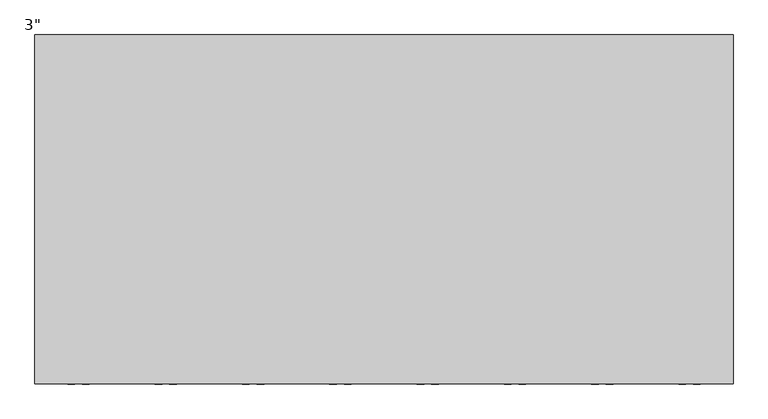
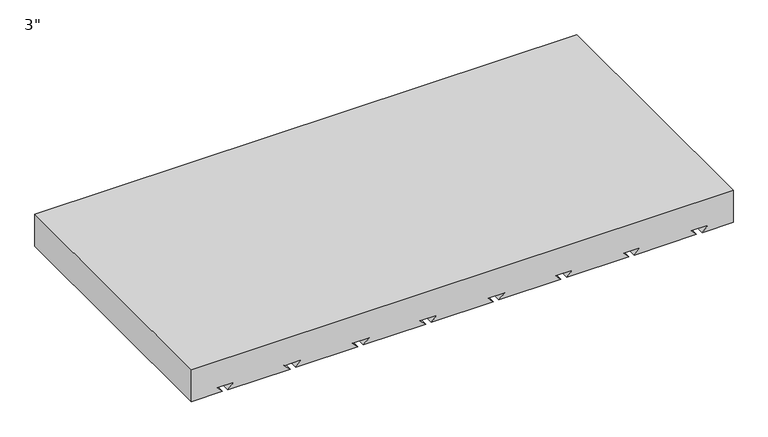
"""IFC4 building model written with IfcOpenShell, lengths in millimetres: proxy geometry."""

from ifc_helpers import new_model, si_unit, frame, origin, place, context, project, spatial, polyline, outline, extrude, source, transform, mapped, element, save


def proxy_998bcb27(model_context):
    return source(origin(), model_context, "Body", "SweptSolid", [
        extrude(outline(polyline([(0.0, 539.75), (0.0, 609.6), (76.2, 609.6), (76.2, -609.6), (0.0, -609.6), (0.0, -539.75), (12.7, -552.45), (12.7, -514.35), (0.0, -527.05), (0.0, -387.35), (12.7, -400.05), (12.7, -361.95), (0.0, -374.65), (0.0, -234.95), (12.7, -247.65), (12.7, -209.55), (0.0, -222.25), (0.0, -82.55), (12.7, -95.25), (12.7, -57.15), (0.0, -69.85), (0.0, 69.85), (12.7, 57.15), (12.7, 95.25), (0.0, 82.55), (0.0, 222.25), (12.7, 209.55), (12.7, 247.65), (0.0, 234.95), (0.0, 374.65), (12.7, 361.95), (12.7, 400.05), (0.0, 387.35), (0.0, 527.05), (12.7, 514.35), (12.7, 552.45), (0.0, 539.75)])), frame((0.0, -304.8, 0.0), z_axis=(0.0, 1.0, 0.0), x_axis=(0.0, 0.0, 1.0)), (0.0, 0.0, 1.0), 609.6),
    ])


if __name__ == "__main__":
    model = new_model("IFC4")
    model_context = context("Model", 3, world=origin())
    ifc_project = project(units=[si_unit("LENGTHUNIT", "METRE", prefix="MILLI")], contexts=[model_context])
    site = spatial("IfcSite", under=ifc_project)
    building = spatial("IfcBuilding", under=site)
    placement = place(None, origin())
    proxy_shape = proxy_998bcb27(model_context)
    element("IfcBuildingElementProxy", 1, Name="Durabond Generic Model Flexlite Insulation Board : 3\"", ObjectType="Durabond Generic Model Flexlite Insulation Board : 3\"", at=placement, inside=building, context=model_context, shape_type="MappedRepresentation", body=[
        mapped(proxy_shape, transform((0.0, 0.0, 0.0), x_axis=(1.0, 0.0, 0.0), y_axis=(0.0, 1.0, 0.0), z_axis=(0.0, 0.0, 1.0))),
    ])
    save(model, "model.ifc")
